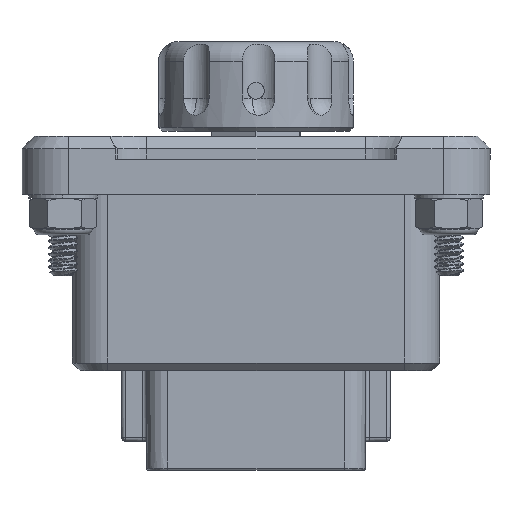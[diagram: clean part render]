
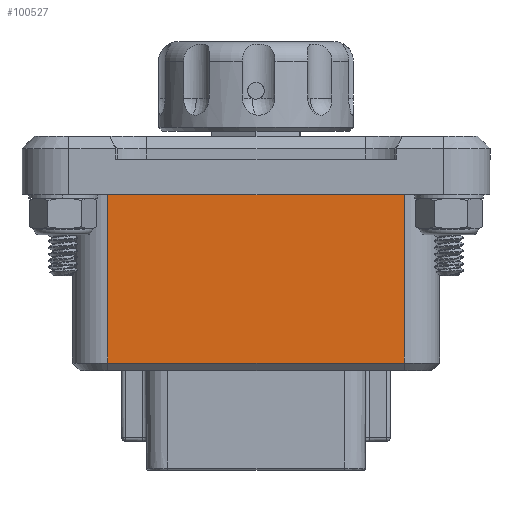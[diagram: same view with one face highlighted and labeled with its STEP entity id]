
A CAD part, front view. The second image highlights one B-rep face of the part: STEP entity #100527.
In plain terms, the highlighted planar face has unit normal (0, -1, 0) as drawn and (-1, 0, 0) by its records, which use the part's own axes.
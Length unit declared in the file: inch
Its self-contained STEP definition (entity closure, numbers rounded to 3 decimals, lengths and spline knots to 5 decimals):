
#268 = CARTESIAN_POINT ( 'NONE',  ( -1.11305, -0.95184, -1.13 ) ) ;
#955 = AXIS2_PLACEMENT_3D ( 'NONE', #6761, #68324, #15664 ) ;
#3863 = VECTOR ( 'NONE', #102337, 39.37008 ) ;
#5753 = VECTOR ( 'NONE', #83723, 39.37008 ) ;
#6604 = DIRECTION ( 'NONE',  ( 0., -1., 0. ) ) ;
#6761 = CARTESIAN_POINT ( 'NONE',  ( -1.11305, -0.95184, -1.13 ) ) ;
#9060 = DIRECTION ( 'NONE',  ( 0., 0., 1. ) ) ;
#12358 = ORIENTED_EDGE ( 'NONE', *, *, #81799, .T. ) ;
#15664 = DIRECTION ( 'NONE',  ( 0., 0., -1. ) ) ;
#26123 = VERTEX_POINT ( 'NONE', #111167 ) ;
#29545 = VERTEX_POINT ( 'NONE', #56948 ) ;
#32375 = CARTESIAN_POINT ( 'NONE',  ( -1.11305, -0.95184, 0. ) ) ;
#32628 = VECTOR ( 'NONE', #6604, 39.37008 ) ;
#32829 = EDGE_CURVE ( 'NONE', #74898, #79853, #97208, .T. ) ;
#41182 = EDGE_LOOP ( 'NONE', ( #61066, #12358, #82435, #95356 ) ) ;
#52657 = LINE ( 'NONE', #57341, #5753 ) ;
#55965 = LINE ( 'NONE', #102868, #32628 ) ;
#56948 = CARTESIAN_POINT ( 'NONE',  ( -1.11305, 0.95184, -1.08 ) ) ;
#57341 = CARTESIAN_POINT ( 'NONE',  ( -1.11305, 0.95184, -1.13 ) ) ;
#59538 = PLANE ( 'NONE',  #955 ) ;
#61066 = ORIENTED_EDGE ( 'NONE', *, *, #79256, .F. ) ;
#63547 = LINE ( 'NONE', #268, #107306 ) ;
#66800 = CARTESIAN_POINT ( 'NONE',  ( -1.11305, 0.95184, 0. ) ) ;
#68324 = DIRECTION ( 'NONE',  ( 1., 0., 0. ) ) ;
#74898 = VERTEX_POINT ( 'NONE', #106813 ) ;
#78051 = EDGE_CURVE ( 'NONE', #26123, #74898, #63547, .T. ) ;
#79256 = EDGE_CURVE ( 'NONE', #29545, #79853, #52657, .T. ) ;
#79853 = VERTEX_POINT ( 'NONE', #66800 ) ;
#81799 = EDGE_CURVE ( 'NONE', #29545, #26123, #55965, .T. ) ;
#82435 = ORIENTED_EDGE ( 'NONE', *, *, #78051, .T. ) ;
#83723 = DIRECTION ( 'NONE',  ( 0., 0., 1. ) ) ;
#91107 = FACE_OUTER_BOUND ( 'NONE', #41182, .T. ) ;
#95356 = ORIENTED_EDGE ( 'NONE', *, *, #32829, .T. ) ;
#97208 = LINE ( 'NONE', #32375, #3863 ) ;
#100527 = ADVANCED_FACE ( 'NONE', ( #91107 ), #59538, .F. ) ;
#102337 = DIRECTION ( 'NONE',  ( 0., 1., 0. ) ) ;
#102868 = CARTESIAN_POINT ( 'NONE',  ( -1.11305, -0.95184, -1.08 ) ) ;
#106813 = CARTESIAN_POINT ( 'NONE',  ( -1.11305, -0.95184, 0. ) ) ;
#107306 = VECTOR ( 'NONE', #9060, 39.37008 ) ;
#111167 = CARTESIAN_POINT ( 'NONE',  ( -1.11305, -0.95184, -1.08 ) ) ;
